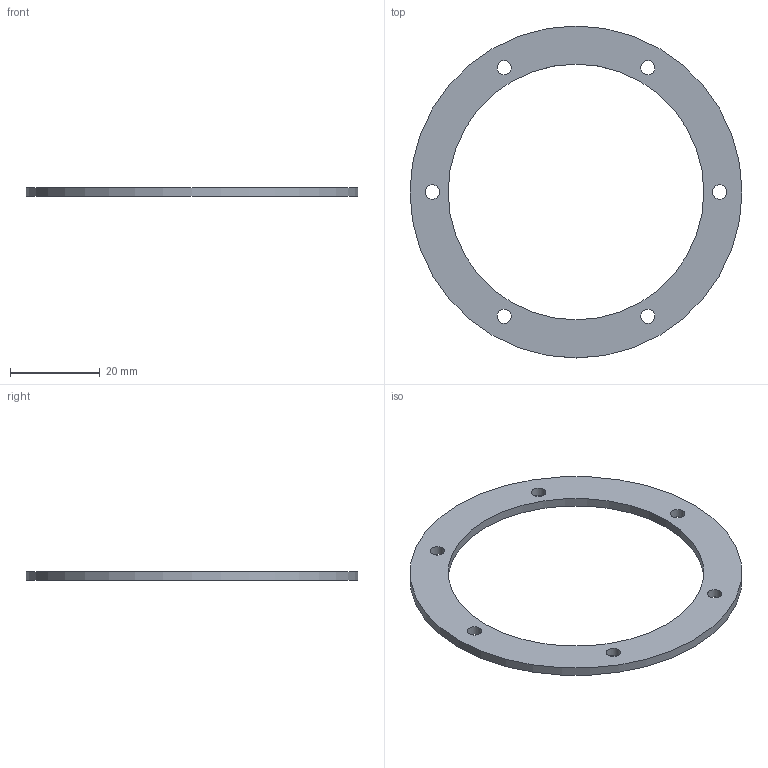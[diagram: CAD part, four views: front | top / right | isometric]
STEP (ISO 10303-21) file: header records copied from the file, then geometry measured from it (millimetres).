
FILE_DESCRIPTION(('Open CASCADE Model'),'2;1');
FILE_NAME('Open CASCADE Shape Model','2026-11-05T01:47:42',('Author'),( 'Open CASCADE'),'Open CASCADE STEP processor 7.8','Open CASCADE 7.8' ,'Unknown');
FILE_SCHEMA(('AUTOMOTIVE_DESIGN { 1 0 10303 214 1 1 1 1 }'));
Length unit declared in the file: millimetre
Products named in the file (1): Open CASCADE STEP translator 7.8 8
Bounding box: 74 x 74 x 2 mm (x, y, z)
Volume: 3401.7 mm3; surface area: 4345.4 mm2
Topology: 1 solids, 1 shells, 10 faces, 24 edges, 16 vertices
Faces by surface type: cylinder 8, plane 2
Full cylindrical faces by diameter (mm): 3.2 x6, 57 x1, 74 x1
Entity records: 660 total; most frequent: CARTESIAN_POINT 111, DIRECTION 108, ORIENTED_EDGE 48, PCURVE 48, DEFINITIONAL_REPRESENTATION 48, LINE 40, VECTOR 40, CIRCLE 30
